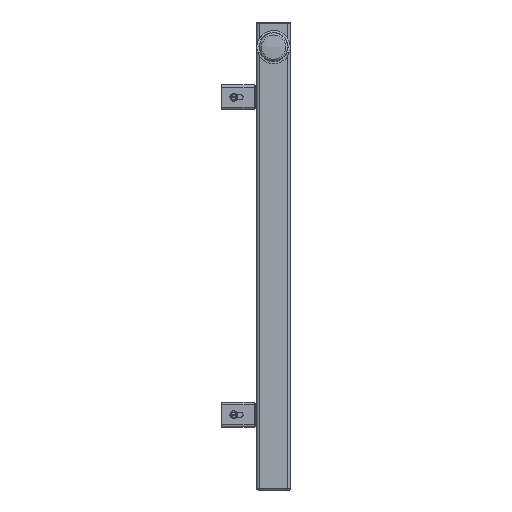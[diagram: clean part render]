
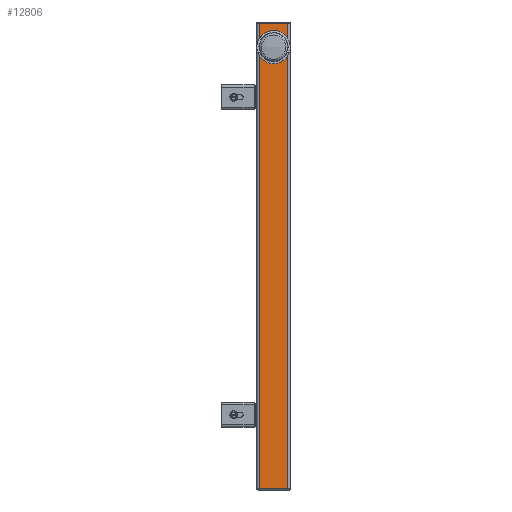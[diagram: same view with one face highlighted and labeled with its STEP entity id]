
A CAD part, left-side view. The second image highlights one B-rep face of the part: STEP entity #12806.
In plain terms, the highlighted planar face has unit normal (-1, 0, 0).
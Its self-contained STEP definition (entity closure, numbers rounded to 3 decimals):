
#12183=CARTESIAN_POINT('',(-40.,-17.0,1.5));
#12184=VERTEX_POINT('',#12183);
#12227=CARTESIAN_POINT('',(-40.,17.0,1.5));
#12228=VERTEX_POINT('',#12227);
#12245=CARTESIAN_POINT('',(-40.,-17.0,1.5));
#12246=DIRECTION('',(0.0,1.0,0.0));
#12247=VECTOR('',#12246,34.0);
#12248=LINE('',#12245,#12247);
#12249=EDGE_CURVE('',#12184,#12228,#12248,.T.);
#12753=CARTESIAN_POINT('',(-40.,17.0,558.5));
#12754=VERTEX_POINT('',#12753);
#12755=CARTESIAN_POINT('',(-40.,17.0,1.5));
#12756=DIRECTION('',(0.0,0.0,1.0));
#12757=VECTOR('',#12756,557.0);
#12758=LINE('',#12755,#12757);
#12759=EDGE_CURVE('',#12228,#12754,#12758,.T.);
#12772=CARTESIAN_POINT('',(-40.,-17.0,0.0));
#12773=DIRECTION('',(-1.0,0.0,0.0));
#12774=DIRECTION('',(0.0,0.0,1.0));
#12775=AXIS2_PLACEMENT_3D('',#12772,#12773,#12774);
#12776=PLANE('',#12775);
#12777=ORIENTED_EDGE('',*,*,#12249,.F.);
#12778=CARTESIAN_POINT('',(-40.,-17.0,558.5));
#12779=VERTEX_POINT('',#12778);
#12780=CARTESIAN_POINT('',(-40.,-17.0,1.5));
#12781=DIRECTION('',(0.0,0.0,1.0));
#12782=VECTOR('',#12781,557.0);
#12783=LINE('',#12780,#12782);
#12784=EDGE_CURVE('',#12184,#12779,#12783,.T.);
#12785=ORIENTED_EDGE('',*,*,#12784,.T.);
#12786=CARTESIAN_POINT('',(-40.,17.,558.5));
#12787=DIRECTION('',(0.0,-1.0,0.0));
#12788=VECTOR('',#12787,34.0);
#12789=LINE('',#12786,#12788);
#12790=EDGE_CURVE('',#12754,#12779,#12789,.T.);
#12791=ORIENTED_EDGE('',*,*,#12790,.F.);
#12792=ORIENTED_EDGE('',*,*,#12759,.F.);
#12793=EDGE_LOOP('',(#12777,#12785,#12791,#12792));
#12794=FACE_OUTER_BOUND('',#12793,.T.);
#12795=CARTESIAN_POINT('',(-40.,0.,545.0));
#12796=VERTEX_POINT('',#12795);
#12797=CARTESIAN_POINT('',(-40.,0.0,530.0));
#12798=DIRECTION('',(1.0,0.0,0.0));
#12799=DIRECTION('',(0.0,0.0,-1.0));
#12800=AXIS2_PLACEMENT_3D('',#12797,#12798,#12799);
#12801=CIRCLE('',#12800,15.0);
#12802=EDGE_CURVE('',#12796,#12796,#12801,.T.);
#12803=ORIENTED_EDGE('',*,*,#12802,.T.);
#12804=EDGE_LOOP('',(#12803));
#12805=FACE_BOUND('',#12804,.T.);
#12806=ADVANCED_FACE('',(#12794,#12805),#12776,.T.);
